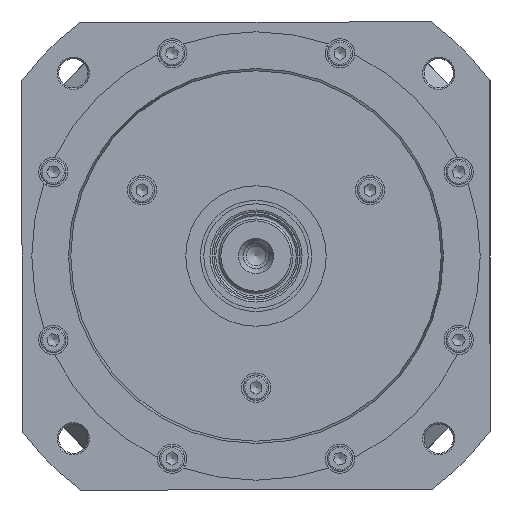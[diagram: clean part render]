
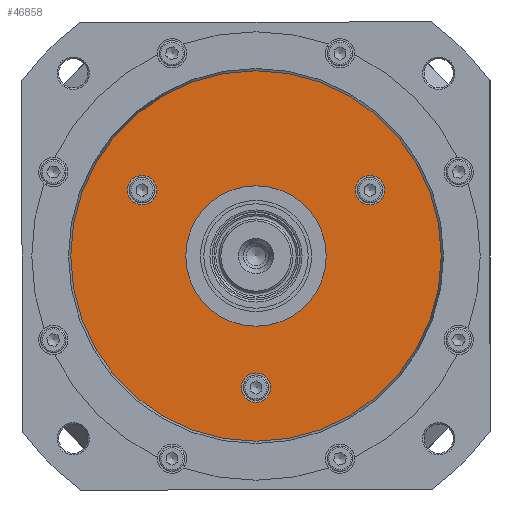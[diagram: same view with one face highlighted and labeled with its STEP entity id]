
A CAD part, left-side view. The second image highlights one B-rep face of the part: STEP entity #46858.
In plain terms, the highlighted planar face has unit normal (-1, 0, 0).
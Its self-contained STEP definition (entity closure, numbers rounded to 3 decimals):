
#11178=FACE_BOUND('',#15418,.T.);
#11179=FACE_BOUND('',#15419,.T.);
#11180=FACE_BOUND('',#15420,.T.);
#11181=FACE_BOUND('',#15421,.T.);
#12506=FACE_OUTER_BOUND('',#15417,.T.);
#15417=EDGE_LOOP('',(#36642));
#15418=EDGE_LOOP('',(#36643));
#15419=EDGE_LOOP('',(#36644));
#15420=EDGE_LOOP('',(#36645));
#15421=EDGE_LOOP('',(#36646));
#18370=CIRCLE('',#51070,7.5);
#18375=CIRCLE('',#51078,7.5);
#18380=CIRCLE('',#51086,7.5);
#18426=CIRCLE('',#51173,36.);
#18427=CIRCLE('',#51175,95.);
#21718=VERTEX_POINT('',#75780);
#21723=VERTEX_POINT('',#75797);
#21728=VERTEX_POINT('',#75814);
#21774=VERTEX_POINT('',#75996);
#21775=VERTEX_POINT('',#76000);
#27078=EDGE_CURVE('',#21718,#21718,#18370,.T.);
#27087=EDGE_CURVE('',#21723,#21723,#18375,.T.);
#27096=EDGE_CURVE('',#21728,#21728,#18380,.T.);
#27192=EDGE_CURVE('',#21774,#21774,#18426,.T.);
#27193=EDGE_CURVE('',#21775,#21775,#18427,.T.);
#36642=ORIENTED_EDGE('',*,*,#27193,.F.);
#36643=ORIENTED_EDGE('',*,*,#27078,.T.);
#36644=ORIENTED_EDGE('',*,*,#27087,.T.);
#36645=ORIENTED_EDGE('',*,*,#27096,.T.);
#36646=ORIENTED_EDGE('',*,*,#27192,.T.);
#45166=PLANE('',#51174);
#46858=ADVANCED_FACE('',(#12506,#11178,#11179,#11180,#11181),#45166,.T.);
#51070=AXIS2_PLACEMENT_3D('',#75781,#60001,#60002);
#51078=AXIS2_PLACEMENT_3D('',#75798,#60021,#60022);
#51086=AXIS2_PLACEMENT_3D('',#75815,#60041,#60042);
#51173=AXIS2_PLACEMENT_3D('',#75998,#60265,#60266);
#51174=AXIS2_PLACEMENT_3D('',#75999,#60267,#60268);
#51175=AXIS2_PLACEMENT_3D('',#76001,#60269,#60270);
#60001=DIRECTION('center_axis',(1.,0.,0.));
#60002=DIRECTION('ref_axis',(0.,-0.5,-0.866));
#60021=DIRECTION('center_axis',(1.,0.,0.));
#60022=DIRECTION('ref_axis',(0.,-0.5,0.866));
#60041=DIRECTION('center_axis',(1.,0.,0.));
#60042=DIRECTION('ref_axis',(0.,1.,0.));
#60265=DIRECTION('center_axis',(1.,0.,0.));
#60266=DIRECTION('ref_axis',(0.,1.,0.));
#60267=DIRECTION('center_axis',(-1.,0.,0.));
#60268=DIRECTION('ref_axis',(0.,-1.,0.));
#60269=DIRECTION('center_axis',(1.,0.,0.));
#60270=DIRECTION('ref_axis',(0.,1.,0.));
#75780=CARTESIAN_POINT('',(-253.9,-54.707,40.245));
#75781=CARTESIAN_POINT('Origin',(-253.9,-58.457,33.75));
#75797=CARTESIAN_POINT('',(-253.9,62.207,27.255));
#75798=CARTESIAN_POINT('Origin',(-253.9,58.457,33.75));
#75814=CARTESIAN_POINT('',(-253.9,-7.5,-67.5));
#75815=CARTESIAN_POINT('Origin',(-253.9,0.,-67.5));
#75996=CARTESIAN_POINT('',(-253.9,0.,-36.));
#75998=CARTESIAN_POINT('Origin',(-253.9,0.,0.));
#75999=CARTESIAN_POINT('Origin',(-253.9,0.,95.));
#76000=CARTESIAN_POINT('',(-253.9,0.,-95.));
#76001=CARTESIAN_POINT('Origin',(-253.9,0.,0.));
